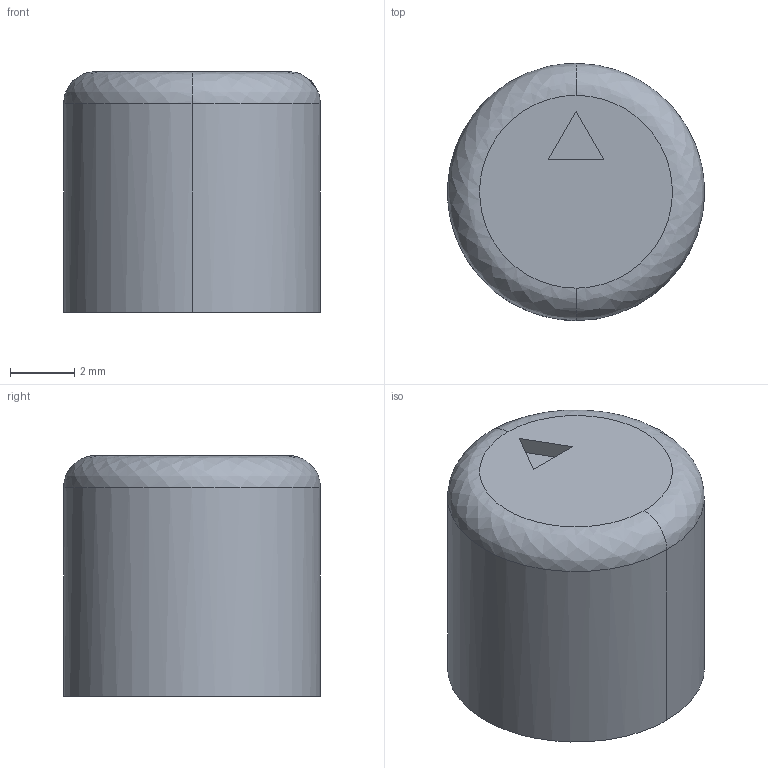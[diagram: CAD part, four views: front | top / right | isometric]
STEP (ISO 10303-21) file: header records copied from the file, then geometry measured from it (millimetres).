
FILE_DESCRIPTION(/* description */ (''),/* implementation_level */ '2;1');
FILE_NAME(/* name */ 'trim90',/* time_stamp */ '2021-01-20T20:59:08+01:00',/* author */ (''),/* organization */ (''),/* preprocessor_version */ 'ST-DEVELOPER v10',/* originating_system */ '',/* authorisation */ '');
FILE_SCHEMA (('CONFIG_CONTROL_DESIGN'));
Length unit declared in the file: millimetre
Products named in the file (1): 1
Bounding box: 8 x 8 x 7.5 mm (x, y, z)
Volume: 301 mm3; surface area: 372.3 mm2
Topology: 1 solids, 1 shells, 24 faces, 61 edges, 41 vertices
Faces by surface type: plane 16, bspline 8
Entity records: 1054 total; most frequent: CARTESIAN_POINT 569, ORIENTED_EDGE 122, EDGE_CURVE 61, B_SPLINE_CURVE_WITH_KNOTS 45, VERTEX_POINT 41, EDGE_LOOP 26, ADVANCED_FACE 24, FACE_OUTER_BOUND 24
